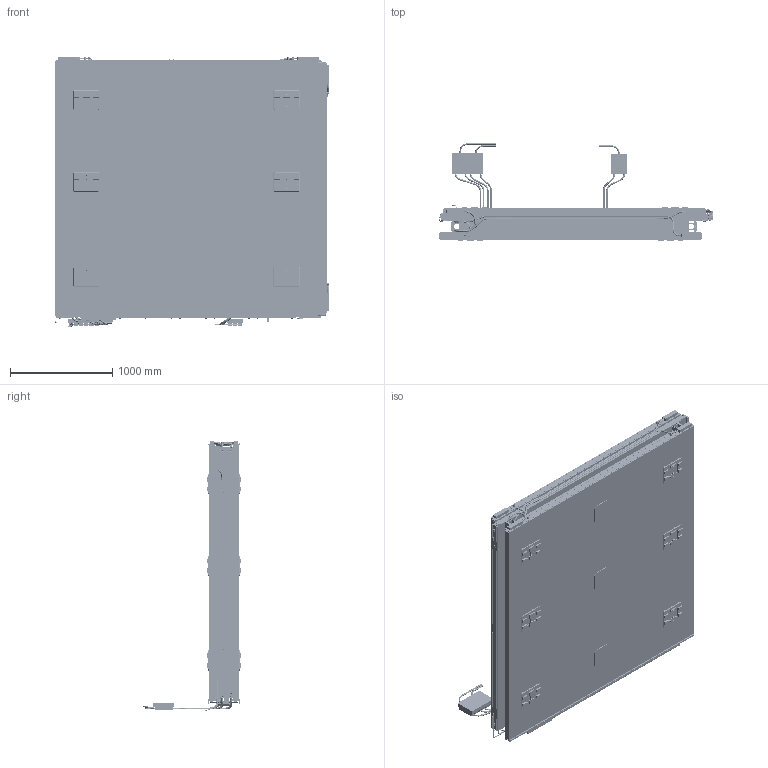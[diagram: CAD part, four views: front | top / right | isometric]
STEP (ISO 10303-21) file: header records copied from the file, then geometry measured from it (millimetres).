
FILE_DESCRIPTION(/* description */ (''),/* implementation_level */ '2;1');
FILE_NAME(/* name */ '030930_mb2_-2_2_4_phi_R_carters.stp',/* time_stamp */ '2022-04-14T13:35:03+02:00',/* author */ (''),/* organization */ (''),/* preprocessor_version */ 'ST-DEVELOPER v18.1',/* originating_system */ 'SIEMENS PLM Software NX 1992',/* authorisation */ '');
FILE_SCHEMA (('AUTOMOTIVE_DESIGN { 1 0 10303 214 3 1 1 1 }'));
Products named in the file (1): zago349C2021bnpm
Bounding box: 2687.75 x 958.84 x 2640.08 mm (x, y, z)
Volume: 1862141951.3 mm3; surface area: 192407776.5 mm2
Topology: 307 solids, 307 shells, 15102 faces, 38706 edges, 24174 vertices
Faces by surface type: plane 9486, cylinder 4475, cone 871, bspline 136, torus 98, sphere 36
Full cylindrical faces by diameter (mm): 1 x219, 1.675 x12, 2.594 x54, 3 x72, 3.2 x12, 3.3 x36, 3.432 x475, 3.5 x50, 3.778 x7, 4 x35, 4.8 x32, 5 x58, 5.188 x64, 5.5 x286, 6 x25, 6.4 x20, 6.5 x16, 7 x3, 7.188 x4, 7.5 x72, 8 x53, 8.6 x6, 8.782 x28, 8.933 x24, 8.985 x24, 9.391 x48, 9.5 x64, 10 x4, 10.287 x12, 10.5 x48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
Entity records: 471867 total; most frequent: CARTESIAN_POINT 121415, ORIENTED_EDGE 68362, DIRECTION 64753, EDGE_CURVE 34181, AXIS2_PLACEMENT_3D 23865, VERTEX_POINT 22905, EDGE_LOOP 20839, LINE 17023
